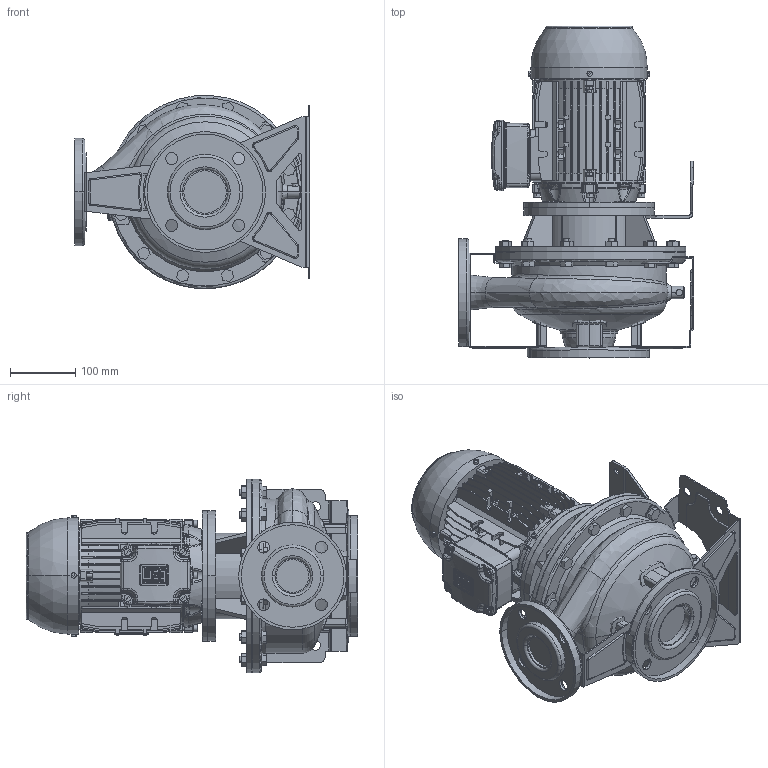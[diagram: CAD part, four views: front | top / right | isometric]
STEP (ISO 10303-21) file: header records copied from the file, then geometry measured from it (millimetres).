
FILE_DESCRIPTION (( 'STEP AP214' ), '1' );
FILE_NAME ('3LS4 50-200_1.5_(90SL)_W21.STEP', '2026-10-05T01:21:15', ( '' ), ( '' ), 'SwSTEP 2.0', 'SolidWorks 2024', '' );
FILE_SCHEMA (( 'AUTOMOTIVE_DESIGN' ));
Length unit declared in the file: inch
Products named in the file (3): 90S_L ALIE3_W21T_B5; 3SF4_50-200_1_5; 3LS4 50-200_1.5_(90SL)_W21
Assembly tree (2 placements, depth 2):
  3LS4 50-200_1.5_(90SL)_W21
    3SF4_50-200_1_5
    90S_L ALIE3_W21T_B5
Bounding box: 360 x 508 x 295.54 mm (x, y, z)
Volume: 13004358.3 mm3; surface area: 1387781.9 mm2
Topology: 12 solids, 16 shells, 3157 faces, 8328 edges, 5410 vertices
Faces by surface type: plane 1881, cylinder 755, bspline 215, torus 168, cone 110, sphere 28
Entity records: 160044 total; most frequent: CARTESIAN_POINT 83504, ORIENTED_EDGE 16600, DIRECTION 14755, EDGE_CURVE 8300, VERTEX_POINT 5410, LINE 5227, VECTOR 5227, AXIS2_PLACEMENT_3D 4764
